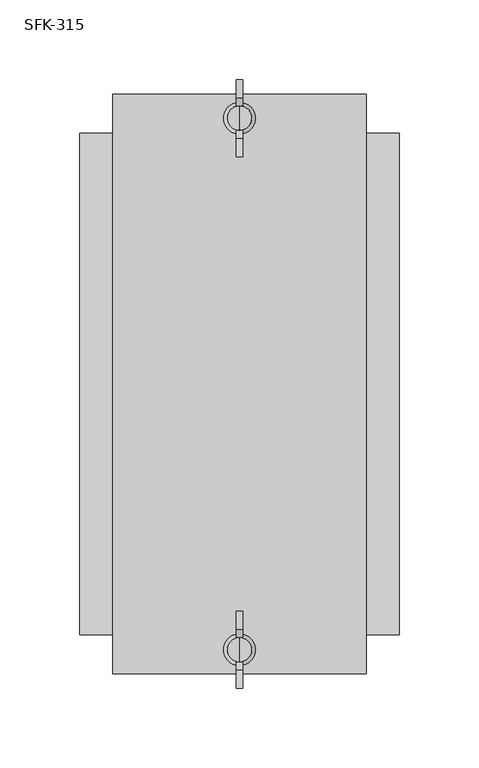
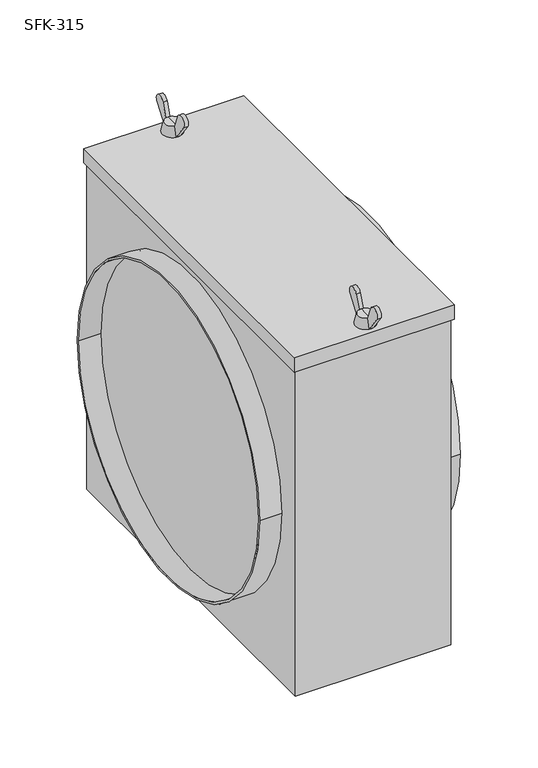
"""IFC4 building model written with IfcOpenShell, lengths in millimetres: damper geometry, СВ_ФильтрКассетный_КанальныйКруглый_DN100-315_SFK : SFK-315."""

from ifc_helpers import new_model, si_unit, point, frame, frame_2d, origin, origin_2d, place, context, project, spatial, polyline, circle_curve, trimmed, segment, composite_curve, outline, extrude, source, transform, mapped, element, save
from ifc_brep_helpers import plane_surface, revolved_surface, advanced_brep


def sfk_315_218a1dff(model_context):
    return source(origin(), model_context, "Body", "SolidModel", [
        extrude(outline(composite_curve([segment(polyline([(-143.6098085, 196.7418266), (-156.5, 179.0), (-158.8086819, 189.0), (-153.983336, 202.257529)]), True, "CONTINUOUS"), segment(trimmed(circle_curve(frame_2d((-148.4089815, 200.2286299)), 5.9321041), [point((-153.983336, 202.257529))], [point((-143.6098085, 196.7418266))], False, "CARTESIAN"), True, "CONTINUOUS")], self_intersect=False)), frame((-2.0, 0.0, 0.0), z_axis=(1.0, 0.0, 0.0), x_axis=(0.0, 1.0, 0.0)), (0.0, 0.0, 1.0), 4.0),
        extrude(outline(composite_curve([segment(trimmed(circle_curve(frame_2d((-184.5910185, 200.2286299)), 5.9321041), [point((-189.3901915, 196.7418266))], [point((-179.016664, 202.257529))], False, "CARTESIAN"), True, "CONTINUOUS"), segment(polyline([(-179.016664, 202.257529), (-174.1913181, 189.0), (-176.5, 179.0), (-189.3901915, 196.7418266)]), True, "CONTINUOUS")], self_intersect=False)), frame((-2.0, 0.0, 0.0), z_axis=(1.0, 0.0, 0.0), x_axis=(0.0, 1.0, 0.0)), (0.0, 0.0, 1.0), 4.0),
        advanced_brep(
        [(0.0, -174.1913181, 189.0), (0.0, -158.8086819, 189.0), (0.0, -156.5, 179.0), (0.0, -176.5, 179.0), (0.0, -166.5, 189.0), (0.0, -166.5, 179.0)],
        [
            (0, 1, circle_curve(frame((0.0, -166.5, 189.0), z_axis=(0.0, 0.0, -1.0), x_axis=(0.0, 1.0, 0.0)), 7.6913181)),
            (1, 2),
            (2, 3, circle_curve(frame((0.0, -166.5, 179.0), z_axis=(0.0, 0.0, 1.0), x_axis=(0.0, 1.0, 0.0)), 10.0)),
            (3, 0),
            (1, 0, circle_curve(frame((0.0, -166.5, 189.0), z_axis=(0.0, 0.0, -1.0), x_axis=(0.0, 1.0, 0.0)), 7.6913181)),
            (3, 2, circle_curve(frame((0.0, -166.5, 179.0), z_axis=(0.0, 0.0, 1.0), x_axis=(0.0, 1.0, 0.0)), 10.0)),
            (4, 1),
            (0, 4),
            (2, 5),
            (5, 3),
        ],
        [
            revolved_surface(polyline([(0.0, -156.5, 179.0), (0.0, -158.8086819, 189.0)]), (0.0, -166.5, 179.0), (0.0, 0.0, 1.0)),
            plane_surface(frame((0.0, -166.5, 189.0), z_axis=(0.0, 0.0, 1.0), x_axis=(0.0, 1.0, 0.0))),
            plane_surface(frame((0.0, -166.5, 179.0), z_axis=(0.0, 0.0, -1.0), x_axis=(0.0, 1.0, 0.0))),
        ],
        [
            (0, [[1, 2, 3, 4]]),
            (0, [[5, -4, 6, -2]]),
            (1, [[7, -1, 8]]),
            (1, [[-8, -5, -7]]),
            (2, [[-3, 9, 10]]),
            (2, [[-6, -10, -9]]),
        ],
    ),
        extrude(outline(composite_curve([segment(polyline([(189.3901915, 196.7418266), (176.5, 179.0), (174.1913181, 189.0), (179.016664, 202.257529)]), True, "CONTINUOUS"), segment(trimmed(circle_curve(frame_2d((184.5910185, 200.2286299)), 5.9321041), [point((179.016664, 202.257529))], [point((189.3901915, 196.7418266))], False, "CARTESIAN"), True, "CONTINUOUS")], self_intersect=False)), frame((-2.0, 0.0, 0.0), z_axis=(1.0, 0.0, 0.0), x_axis=(0.0, 1.0, 0.0)), (0.0, 0.0, 1.0), 4.0),
        extrude(outline(composite_curve([segment(trimmed(circle_curve(frame_2d((148.4089815, 200.2286299)), 5.9321041), [point((143.6098085, 196.7418266))], [point((153.983336, 202.257529))], False, "CARTESIAN"), True, "CONTINUOUS"), segment(polyline([(153.983336, 202.257529), (158.8086819, 189.0), (156.5, 179.0), (143.6098085, 196.7418266)]), True, "CONTINUOUS")], self_intersect=False)), frame((-2.0, 0.0, 0.0), z_axis=(1.0, 0.0, 0.0), x_axis=(0.0, 1.0, 0.0)), (0.0, 0.0, 1.0), 4.0),
        advanced_brep(
        [(0.0, 158.8086819, 189.0), (0.0, 174.1913181, 189.0), (0.0, 176.5, 179.0), (0.0, 156.5, 179.0), (0.0, 166.5, 189.0), (0.0, 166.5, 179.0)],
        [
            (0, 1, circle_curve(frame((0.0, 166.5, 189.0), z_axis=(0.0, 0.0, -1.0), x_axis=(0.0, 1.0, 0.0)), 7.6913181)),
            (1, 2),
            (2, 3, circle_curve(frame((0.0, 166.5, 179.0), z_axis=(0.0, 0.0, 1.0), x_axis=(0.0, 1.0, 0.0)), 10.0)),
            (3, 0),
            (1, 0, circle_curve(frame((0.0, 166.5, 189.0), z_axis=(0.0, 0.0, -1.0), x_axis=(0.0, 1.0, 0.0)), 7.6913181)),
            (3, 2, circle_curve(frame((0.0, 166.5, 179.0), z_axis=(0.0, 0.0, 1.0), x_axis=(0.0, 1.0, 0.0)), 10.0)),
            (4, 1),
            (0, 4),
            (2, 5),
            (5, 3),
        ],
        [
            revolved_surface(polyline([(0.0, 176.5, 179.0), (0.0, 174.1913181, 189.0)]), (0.0, 166.5, 179.0), (0.0, 0.0, 1.0)),
            plane_surface(frame((0.0, 166.5, 189.0), z_axis=(0.0, 0.0, 1.0), x_axis=(0.0, 1.0, 0.0))),
            plane_surface(frame((0.0, 166.5, 179.0), z_axis=(0.0, 0.0, -1.0), x_axis=(0.0, 1.0, 0.0))),
        ],
        [
            (0, [[1, 2, 3, 4]]),
            (0, [[5, -4, 6, -2]]),
            (1, [[7, -1, 8]]),
            (1, [[-8, -5, -7]]),
            (2, [[-3, 9, 10]]),
            (2, [[-6, -10, -9]]),
        ],
    ),
        extrude(outline(polyline([(-79.5, 181.5), (79.5, 181.5), (79.5, -181.5), (-79.5, -181.5), (-79.5, 181.5)])), frame((0.0, 0.0, 164.0), z_axis=(0.0, 0.0, 1.0), x_axis=(1.0, 0.0, 0.0)), (0.0, 0.0, 1.0), 15.0),
        extrude(outline(polyline([(77.5, -179.5), (-77.5, -179.5), (-77.5, 179.5), (77.5, 179.5), (77.5, -179.5)])), frame((0.0, 0.0, -179.0), z_axis=(0.0, 0.0, 1.0), x_axis=(1.0, 0.0, 0.0)), (0.0, 0.0, 1.0), 343.0),
        extrude(outline(composite_curve([segment(trimmed(circle_curve(origin_2d(), 157.0), [point((-157.0, 0.0))], [point((157.0, 0.0))], False, "CARTESIAN"), True, "CONTINUOUS"), segment(trimmed(circle_curve(origin_2d(), 157.0), [point((157.0, 0.0))], [point((-157.0, 0.0))], False, "CARTESIAN"), True, "CONTINUOUS")], self_intersect=False), holes=[composite_curve([segment(trimmed(circle_curve(origin_2d(), 155.0), [point((-155.0, 0.0))], [point((155.0, 0.0))], True, "CARTESIAN"), True, "CONTINUOUS"), segment(trimmed(circle_curve(origin_2d(), 155.0), [point((155.0, 0.0))], [point((-155.0, 0.0))], True, "CARTESIAN"), True, "CONTINUOUS")], self_intersect=False)]), frame((-100.0, 0.0, 0.0), z_axis=(1.0, 0.0, 0.0), x_axis=(0.0, 1.0, 0.0)), (0.0, 0.0, 1.0), 22.5),
        extrude(outline(composite_curve([segment(trimmed(circle_curve(origin_2d(), 157.0), [point((-157.0, 0.0))], [point((157.0, 0.0))], False, "CARTESIAN"), True, "CONTINUOUS"), segment(trimmed(circle_curve(origin_2d(), 157.0), [point((157.0, 0.0))], [point((-157.0, 0.0))], False, "CARTESIAN"), True, "CONTINUOUS")], self_intersect=False), holes=[composite_curve([segment(trimmed(circle_curve(origin_2d(), 155.0), [point((-155.0, 0.0))], [point((155.0, 0.0))], True, "CARTESIAN"), True, "CONTINUOUS"), segment(trimmed(circle_curve(origin_2d(), 155.0), [point((155.0, 0.0))], [point((-155.0, 0.0))], True, "CARTESIAN"), True, "CONTINUOUS")], self_intersect=False)]), frame((77.5, 0.0, 0.0), z_axis=(1.0, 0.0, 0.0), x_axis=(0.0, 1.0, 0.0)), (0.0, 0.0, 1.0), 22.5),
    ])


if __name__ == "__main__":
    model = new_model("IFC4")
    model_context = context("Model", 3, world=origin())
    ifc_project = project(units=[si_unit("LENGTHUNIT", "METRE", prefix="MILLI")], contexts=[model_context])
    site = spatial("IfcSite", under=ifc_project)
    building = spatial("IfcBuilding", under=site)
    placement = place(None, origin())
    sfk_315_shape = sfk_315_218a1dff(model_context)
    element("IfcDamper", 1, ObjectType="СВ_ФильтрКассетный_КанальныйКруглый_DN100-315_SFK : SFK-315", at=placement, inside=building, context=model_context, shape_type="MappedRepresentation", body=[
        mapped(sfk_315_shape, transform((0.0, 0.0, 0.0), x_axis=(1.0, 0.0, 0.0), y_axis=(0.0, 1.0, 0.0), z_axis=(0.0, 0.0, 1.0))),
    ])
    save(model, "model.ifc")
